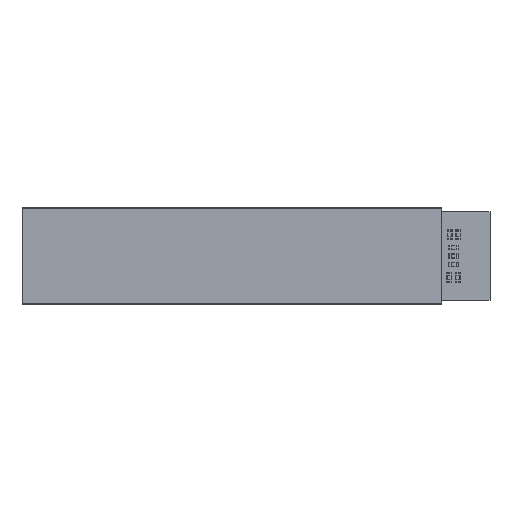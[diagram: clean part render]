
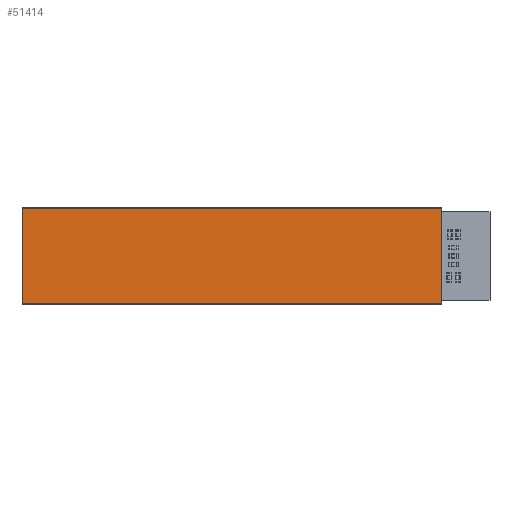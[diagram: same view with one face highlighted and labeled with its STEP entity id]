
A CAD part, top view. The second image highlights one B-rep face of the part: STEP entity #51414.
In plain terms, the highlighted planar face has unit normal (0, 0, 1) as drawn and (-1, 0, 0) by its records, which use the part's own axes.
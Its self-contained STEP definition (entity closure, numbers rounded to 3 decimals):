
#51277=DIRECTION('',(0.,1.,0.));
#51278=VECTOR('',#51277,42.5);
#51279=CARTESIAN_POINT('',(6.337,-15.801,
7.792));
#51280=LINE('',#51279,#51278);
#51284=DIRECTION('',(0.,0.,-1.));
#51285=VECTOR('',#51284,9.7);
#51286=CARTESIAN_POINT('',(6.337,-15.801,
7.792));
#51287=LINE('',#51286,#51285);
#51291=DIRECTION('',(0.,1.,0.));
#51292=VECTOR('',#51291,42.5);
#51293=CARTESIAN_POINT('',(6.337,-15.801,
-1.908));
#51294=LINE('',#51293,#51292);
#51326=DIRECTION('',(0.,0.,-1.));
#51327=VECTOR('',#51326,9.7);
#51328=CARTESIAN_POINT('',(6.337,26.699,7.792));
#51329=LINE('',#51328,#51327);
#51344=CARTESIAN_POINT('',(6.337,-15.801,
-1.908));
#51345=VERTEX_POINT('',#51344);
#51346=CARTESIAN_POINT('',(6.337,-15.801,
7.792));
#51347=VERTEX_POINT('',#51346);
#51352=CARTESIAN_POINT('',(6.337,26.699,7.792));
#51353=VERTEX_POINT('',#51352);
#51354=CARTESIAN_POINT('',(6.337,26.699,
-1.908));
#51355=VERTEX_POINT('',#51354);
#51401=CARTESIAN_POINT('',(6.337,-15.801,
7.942));
#51402=DIRECTION('',(-1.,0.,0.));
#51403=DIRECTION('',(0.,0.,-1.));
#51404=AXIS2_PLACEMENT_3D('',#51401,#51402,#51403);
#51405=PLANE('',#51404);
#51406=ORIENTED_EDGE('',*,*,#51365,.T.);
#51408=ORIENTED_EDGE('',*,*,#51407,.T.);
#51410=ORIENTED_EDGE('',*,*,#51409,.F.);
#51411=ORIENTED_EDGE('',*,*,#51393,.F.);
#51412=EDGE_LOOP('',(#51406,#51408,#51410,#51411));
#51413=FACE_OUTER_BOUND('',#51412,.F.);
#51414=ADVANCED_FACE('',(#51413),#51405,.T.);
#51365=EDGE_CURVE('',#51347,#51345,#51287,.T.);
#51393=EDGE_CURVE('',#51347,#51353,#51280,.T.);
#51407=EDGE_CURVE('',#51345,#51355,#51294,.T.);
#51409=EDGE_CURVE('',#51353,#51355,#51329,.T.);
